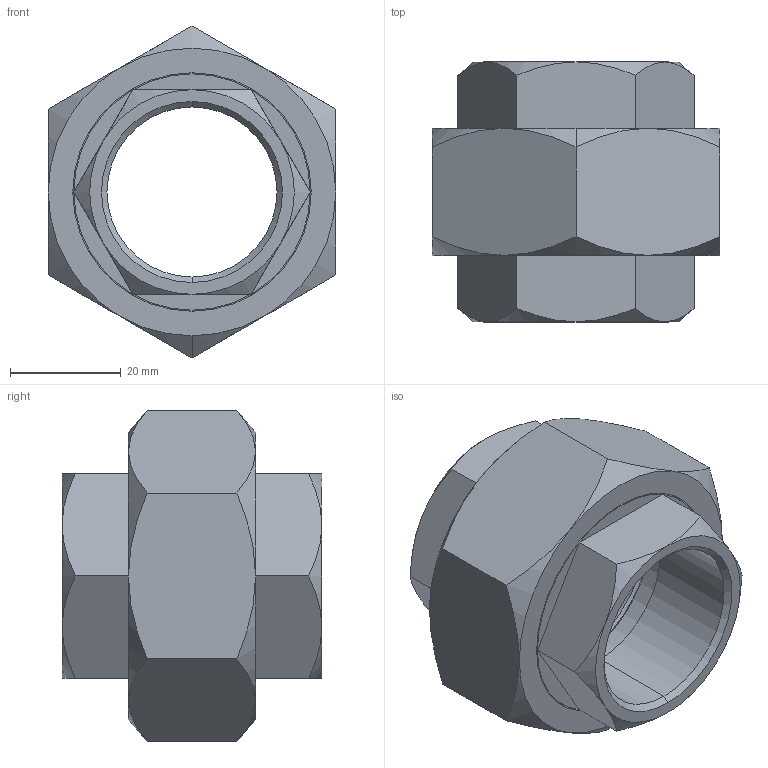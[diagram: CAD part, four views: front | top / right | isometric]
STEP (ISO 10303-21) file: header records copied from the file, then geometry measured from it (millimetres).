
FILE_DESCRIPTION (( 'STEP AP203' ), '1' );
FILE_NAME ('AXH14 B6B6 00.STEP', '2018-11-17T14:33:52', ( '' ), ( '' ), 'SwSTEP 2.0', 'SolidWorks 2013', '' );
FILE_SCHEMA (( 'CONFIG_CONTROL_DESIGN' ));
Length unit declared in the file: millimetre
Products named in the file (1): AXH14 B6B6 00
Bounding box: 52 x 47 x 60.04 mm (x, y, z)
Volume: 42722.2 mm3; surface area: 16396 mm2
Topology: 1 solids, 1 shells, 88 faces, 180 edges, 100 vertices
Faces by surface type: plane 38, cone 34, cylinder 16
Entity records: 2677 total; most frequent: CARTESIAN_POINT 801, DIRECTION 386, ORIENTED_EDGE 360, EDGE_CURVE 180, AXIS2_PLACEMENT_3D 165, VERTEX_POINT 100, EDGE_LOOP 96, ADVANCED_FACE 88
